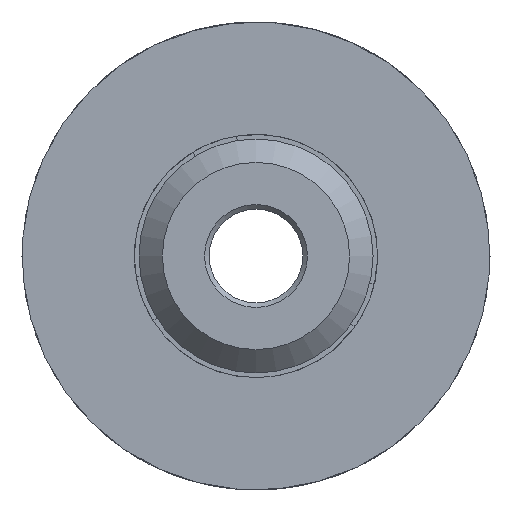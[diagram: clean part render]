
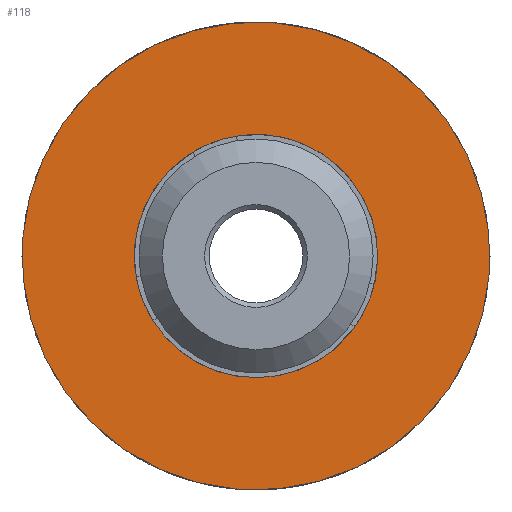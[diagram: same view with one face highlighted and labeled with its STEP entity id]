
A CAD part, left-side view. The second image highlights one B-rep face of the part: STEP entity #118.
In plain terms, the highlighted planar face has unit normal (-1, 0, 0).
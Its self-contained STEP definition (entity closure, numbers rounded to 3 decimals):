
#118=ADVANCED_FACE('',(#229,#230),#231,.T.);
#229=FACE_BOUND('',#361,.T.);
#230=FACE_OUTER_BOUND('',#362,.T.);
#231=PLANE('',#363);
#361=EDGE_LOOP('',(#514));
#362=EDGE_LOOP('',(#515));
#363=AXIS2_PLACEMENT_3D('',#516,#517,#518);
#514=ORIENTED_EDGE('',*,*,#697,.F.);
#515=ORIENTED_EDGE('',*,*,#707,.T.);
#516=CARTESIAN_POINT('',(-1.0,0.0,0.));
#517=DIRECTION('',(-1.0,0.,0.0));
#518=DIRECTION('',(0.,-1.0,0.0));
#697=EDGE_CURVE('',#784,#784,#785,.T.);
#707=EDGE_CURVE('',#801,#801,#802,.T.);
#784=VERTEX_POINT('',#906);
#785=CIRCLE('',#907,2.6);
#801=VERTEX_POINT('',#927);
#802=CIRCLE('',#928,5.0);
#906=CARTESIAN_POINT('',(-1.0,2.6,0.));
#907=AXIS2_PLACEMENT_3D('',#1179,#1180,#1181);
#927=CARTESIAN_POINT('',(-1.0,5.0,0.));
#928=AXIS2_PLACEMENT_3D('',#1198,#1199,#1200);
#1179=CARTESIAN_POINT('',(-1.0,0.0,0.));
#1180=DIRECTION('',(-1.0,0.,0.0));
#1181=DIRECTION('',(0.,1.0,0.0));
#1198=CARTESIAN_POINT('',(-1.0,0.0,0.));
#1199=DIRECTION('',(-1.0,0.,0.0));
#1200=DIRECTION('',(0.,1.0,0.0));
